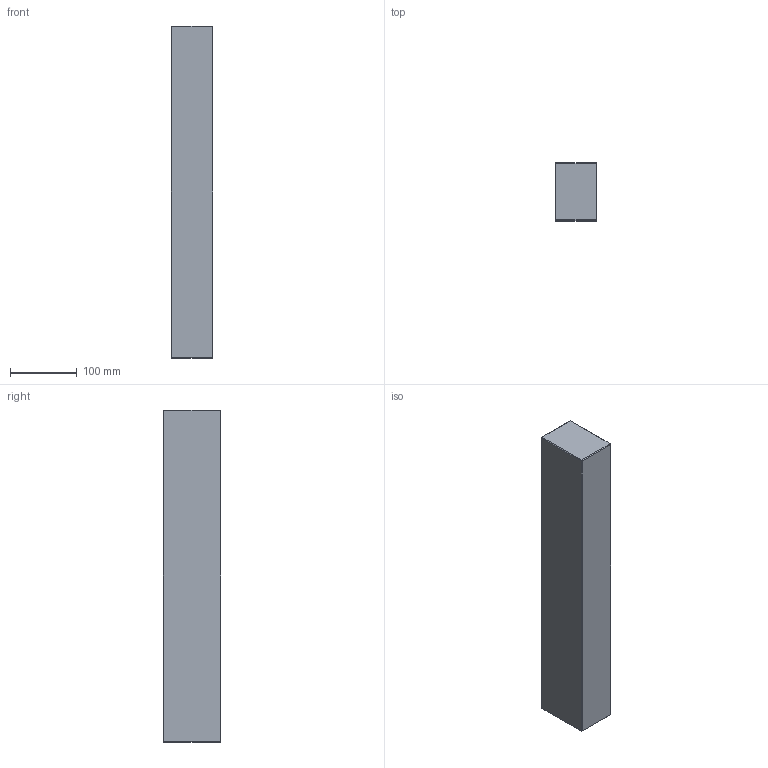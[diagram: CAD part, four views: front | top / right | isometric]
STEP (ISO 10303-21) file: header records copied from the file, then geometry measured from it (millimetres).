
FILE_DESCRIPTION (( 'STEP AP214' ), '1' );
FILE_NAME ('ESP-P-396X496x86.STEP', '2020-04-08T11:20:58', ( 'August' ), ( '' ), 'SwSTEP 2.0', 'SolidWorks 2018', '' );
FILE_SCHEMA (( 'AUTOMOTIVE_DESIGN' ));
Length unit declared in the file: millimetre
Products named in the file (1): ESP-P-396X496x86
Bounding box: 62 x 86 x 496 mm (x, y, z)
Volume: 2643389.3 mm3; surface area: 155968 mm2
Topology: 1 solids, 1 shells, 26 faces, 48 edges, 24 vertices
Faces by surface type: plane 26
Entity records: 634 total; most frequent: DIRECTION 102, CARTESIAN_POINT 99, ORIENTED_EDGE 96, LINE 48, VECTOR 48, EDGE_CURVE 48, AXIS2_PLACEMENT_3D 27, FACE_OUTER_BOUND 26
